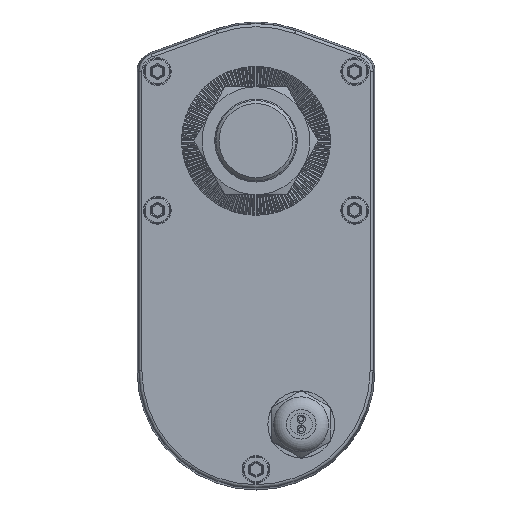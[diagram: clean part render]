
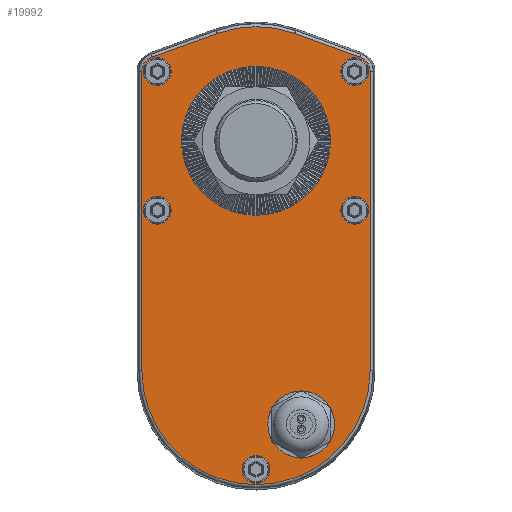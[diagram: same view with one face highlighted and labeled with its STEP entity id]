
A CAD part, top view. The second image highlights one B-rep face of the part: STEP entity #19992.
In plain terms, the highlighted planar face has unit normal (0, 0, 1).
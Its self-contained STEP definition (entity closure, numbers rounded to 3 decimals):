
#30 = CARTESIAN_POINT ( 'NONE',  ( -24.1, 0., 40. ) ) ;
#102 = CIRCLE ( 'NONE', #19514, 37.012 ) ;
#165 = AXIS2_PLACEMENT_3D ( 'NONE', #24061, #10828, #26296 ) ;
#299 = VECTOR ( 'NONE', #13259, 1000. ) ;
#483 = EDGE_CURVE ( 'NONE', #19785, #12077, #17499, .T. ) ;
#643 = CARTESIAN_POINT ( 'NONE',  ( -32., 22.46, 40. ) ) ;
#801 = AXIS2_PLACEMENT_3D ( 'NONE', #4256, #19655, #6431 ) ;
#879 = AXIS2_PLACEMENT_3D ( 'NONE', #14597, #1442, #16815 ) ;
#978 = LINE ( 'NONE', #6620, #299 ) ;
#1142 = EDGE_LOOP ( 'NONE', ( #6708 ) ) ;
#1442 = DIRECTION ( 'NONE',  ( 0., 0., 1. ) ) ;
#1663 = FACE_BOUND ( 'NONE', #1142, .T. ) ;
#1700 = EDGE_LOOP ( 'NONE', ( #19817 ) ) ;
#1808 = EDGE_CURVE ( 'NONE', #18748, #18748, #10499, .T. ) ;
#1839 = DIRECTION ( 'NONE',  ( -1., 0., 0. ) ) ;
#2141 = CARTESIAN_POINT ( 'NONE',  ( -27.5, -22.54, 40. ) ) ;
#2345 = CARTESIAN_POINT ( 'NONE',  ( -27.5, 22.46, 40. ) ) ;
#2377 = FACE_BOUND ( 'NONE', #21349, .T. ) ;
#2860 = DIRECTION ( 'NONE',  ( 1., 0., 0. ) ) ;
#2904 = VERTEX_POINT ( 'NONE', #22342 ) ;
#3055 = FACE_BOUND ( 'NONE', #18378, .T. ) ;
#3233 = VERTEX_POINT ( 'NONE', #24531 ) ;
#3531 = DIRECTION ( 'NONE',  ( 0., 0., 1. ) ) ;
#4256 = CARTESIAN_POINT ( 'NONE',  ( 31.995, 22.46, 40. ) ) ;
#5053 = CARTESIAN_POINT ( 'NONE',  ( -32., -22.54, 40. ) ) ;
#5640 = VERTEX_POINT ( 'NONE', #2141 ) ;
#5642 = ORIENTED_EDGE ( 'NONE', *, *, #14947, .T. ) ;
#6078 = LINE ( 'NONE', #7529, #17101 ) ;
#6153 = EDGE_CURVE ( 'NONE', #5640, #5640, #6288, .T. ) ;
#6197 = CARTESIAN_POINT ( 'NONE',  ( 0., 0., 40. ) ) ;
#6288 = CIRCLE ( 'NONE', #22756, 4.5 ) ;
#6431 = DIRECTION ( 'NONE',  ( -1., 0., 0. ) ) ;
#6620 = CARTESIAN_POINT ( 'NONE',  ( 37.012, 22.46, 40. ) ) ;
#6708 = ORIENTED_EDGE ( 'NONE', *, *, #8583, .F. ) ;
#6823 = ORIENTED_EDGE ( 'NONE', *, *, #6153, .F. ) ;
#6941 = ORIENTED_EDGE ( 'NONE', *, *, #21384, .T. ) ;
#6993 = DIRECTION ( 'NONE',  ( -0.94, 0.34, 0. ) ) ;
#7106 = CARTESIAN_POINT ( 'NONE',  ( 0., -106.54, 40. ) ) ;
#7242 = DIRECTION ( 'NONE',  ( 1., 0., 0. ) ) ;
#7376 = ORIENTED_EDGE ( 'NONE', *, *, #10902, .F. ) ;
#7489 = CIRCLE ( 'NONE', #801, 5.017 ) ;
#7493 = FACE_OUTER_BOUND ( 'NONE', #27984, .T. ) ;
#7529 = CARTESIAN_POINT ( 'NONE',  ( -33.701, 27.179, 40. ) ) ;
#8492 = CIRCLE ( 'NONE', #165, 4.5 ) ;
#8583 = EDGE_CURVE ( 'NONE', #27680, #27680, #17004, .T. ) ;
#8729 = CARTESIAN_POINT ( 'NONE',  ( 6.781, -91.966, 40. ) ) ;
#8791 = ORIENTED_EDGE ( 'NONE', *, *, #22397, .F. ) ;
#9043 = AXIS2_PLACEMENT_3D ( 'NONE', #643, #16004, #2860 ) ;
#9056 = DIRECTION ( 'NONE',  ( 0., 0., 1. ) ) ;
#9116 = CARTESIAN_POINT ( 'NONE',  ( 12.586, 34.812, 40. ) ) ;
#9308 = DIRECTION ( 'NONE',  ( 1., 0., 0. ) ) ;
#9420 = VERTEX_POINT ( 'NONE', #17585 ) ;
#10313 = ORIENTED_EDGE ( 'NONE', *, *, #14806, .T. ) ;
#10499 = CIRCLE ( 'NONE', #879, 4.5 ) ;
#10692 = PLANE ( 'NONE',  #27124 ) ;
#10739 = EDGE_LOOP ( 'NONE', ( #14400 ) ) ;
#10828 = DIRECTION ( 'NONE',  ( 0., 0., 1. ) ) ;
#10902 = EDGE_CURVE ( 'NONE', #27002, #27002, #21989, .T. ) ;
#11032 = CIRCLE ( 'NONE', #18227, 5.017 ) ;
#11281 = EDGE_CURVE ( 'NONE', #9420, #9420, #8492, .T. ) ;
#11360 = CARTESIAN_POINT ( 'NONE',  ( -12.586, 34.812, 40. ) ) ;
#11414 = EDGE_LOOP ( 'NONE', ( #7376 ) ) ;
#11482 = DIRECTION ( 'NONE',  ( 0., 0., 1. ) ) ;
#11661 = EDGE_CURVE ( 'NONE', #13120, #14441, #6078, .T. ) ;
#12077 = VERTEX_POINT ( 'NONE', #12629 ) ;
#12220 = ORIENTED_EDGE ( 'NONE', *, *, #483, .T. ) ;
#12334 = CARTESIAN_POINT ( 'NONE',  ( 0., 0., 40. ) ) ;
#12436 = LINE ( 'NONE', #25646, #23515 ) ;
#12629 = CARTESIAN_POINT ( 'NONE',  ( 12.586, 34.812, 40. ) ) ;
#12784 = ORIENTED_EDGE ( 'NONE', *, *, #17986, .T. ) ;
#12906 = DIRECTION ( 'NONE',  ( -1., 0., 0. ) ) ;
#13120 = VERTEX_POINT ( 'NONE', #11360 ) ;
#13259 = DIRECTION ( 'NONE',  ( 0., 1., 0. ) ) ;
#13322 = FACE_BOUND ( 'NONE', #1700, .T. ) ;
#13838 = ORIENTED_EDGE ( 'NONE', *, *, #15346, .F. ) ;
#14041 = FACE_BOUND ( 'NONE', #27894, .T. ) ;
#14400 = ORIENTED_EDGE ( 'NONE', *, *, #1808, .F. ) ;
#14441 = VERTEX_POINT ( 'NONE', #17648 ) ;
#14593 = DIRECTION ( 'NONE',  ( -1., 0., 0. ) ) ;
#14597 = CARTESIAN_POINT ( 'NONE',  ( 32., -22.54, 40. ) ) ;
#14760 = AXIS2_PLACEMENT_3D ( 'NONE', #28179, #14953, #1839 ) ;
#14806 = EDGE_CURVE ( 'NONE', #24516, #2904, #102, .T. ) ;
#14947 = EDGE_CURVE ( 'NONE', #14441, #25927, #11032, .T. ) ;
#14953 = DIRECTION ( 'NONE',  ( 0., 0., 1. ) ) ;
#15346 = EDGE_CURVE ( 'NONE', #24951, #24951, #26232, .T. ) ;
#16004 = DIRECTION ( 'NONE',  ( 0., 0., 1. ) ) ;
#16163 = CARTESIAN_POINT ( 'NONE',  ( -37.012, 22.46, 40. ) ) ;
#16698 = CARTESIAN_POINT ( 'NONE',  ( -31.995, 22.46, 40. ) ) ;
#16815 = DIRECTION ( 'NONE',  ( -1., 0., 0. ) ) ;
#17004 = CIRCLE ( 'NONE', #14760, 7.875 ) ;
#17101 = VECTOR ( 'NONE', #25158, 1000. ) ;
#17410 = CARTESIAN_POINT ( 'NONE',  ( 27.5, -22.54, 40. ) ) ;
#17499 = LINE ( 'NONE', #9116, #22704 ) ;
#17585 = CARTESIAN_POINT ( 'NONE',  ( 27.5, 22.46, 40. ) ) ;
#17648 = CARTESIAN_POINT ( 'NONE',  ( -33.701, 27.179, 40. ) ) ;
#17928 = EDGE_CURVE ( 'NONE', #20409, #19785, #7489, .T. ) ;
#17986 = EDGE_CURVE ( 'NONE', #2904, #20409, #978, .T. ) ;
#18227 = AXIS2_PLACEMENT_3D ( 'NONE', #16698, #3531, #18931 ) ;
#18378 = EDGE_LOOP ( 'NONE', ( #6823 ) ) ;
#18487 = CARTESIAN_POINT ( 'NONE',  ( 33.701, 27.179, 40. ) ) ;
#18748 = VERTEX_POINT ( 'NONE', #17410 ) ;
#18931 = DIRECTION ( 'NONE',  ( -1., 0., 0. ) ) ;
#19233 = FACE_BOUND ( 'NONE', #10739, .T. ) ;
#19514 = AXIS2_PLACEMENT_3D ( 'NONE', #24719, #11482, #26932 ) ;
#19655 = DIRECTION ( 'NONE',  ( 0., 0., 1. ) ) ;
#19785 = VERTEX_POINT ( 'NONE', #18487 ) ;
#19817 = ORIENTED_EDGE ( 'NONE', *, *, #11281, .F. ) ;
#19992 = ADVANCED_FACE ( 'NONE', ( #25088, #14041, #3055, #2377, #19233, #13322, #7493, #1663 ), #10692, .F. ) ;
#20409 = VERTEX_POINT ( 'NONE', #20940 ) ;
#20411 = ORIENTED_EDGE ( 'NONE', *, *, #17928, .T. ) ;
#20477 = DIRECTION ( 'NONE',  ( 0., 0., 1. ) ) ;
#20940 = CARTESIAN_POINT ( 'NONE',  ( 37.012, 22.46, 40. ) ) ;
#21349 = EDGE_LOOP ( 'NONE', ( #8791 ) ) ;
#21384 = EDGE_CURVE ( 'NONE', #12077, #13120, #22950, .T. ) ;
#21474 = CARTESIAN_POINT ( 'NONE',  ( -37.012, -74.495, 40. ) ) ;
#21989 = CIRCLE ( 'NONE', #26223, 24.1 ) ;
#22280 = CARTESIAN_POINT ( 'NONE',  ( 0., 0., 40. ) ) ;
#22342 = CARTESIAN_POINT ( 'NONE',  ( 37.012, -74.495, 40. ) ) ;
#22397 = EDGE_CURVE ( 'NONE', #3233, #3233, #26372, .T. ) ;
#22542 = DIRECTION ( 'NONE',  ( 0., 0., 1. ) ) ;
#22704 = VECTOR ( 'NONE', #6993, 1000. ) ;
#22733 = AXIS2_PLACEMENT_3D ( 'NONE', #12334, #27791, #14593 ) ;
#22756 = AXIS2_PLACEMENT_3D ( 'NONE', #5053, #20477, #7242 ) ;
#22950 = CIRCLE ( 'NONE', #22733, 37.017 ) ;
#23515 = VECTOR ( 'NONE', #27914, 1000. ) ;
#23710 = EDGE_CURVE ( 'NONE', #25927, #24516, #12436, .T. ) ;
#24061 = CARTESIAN_POINT ( 'NONE',  ( 32., 22.46, 40. ) ) ;
#24343 = ORIENTED_EDGE ( 'NONE', *, *, #11661, .T. ) ;
#24471 = DIRECTION ( 'NONE',  ( -1., 0., 0. ) ) ;
#24516 = VERTEX_POINT ( 'NONE', #21474 ) ;
#24531 = CARTESIAN_POINT ( 'NONE',  ( 4.5, -106.54, 40. ) ) ;
#24719 = CARTESIAN_POINT ( 'NONE',  ( 0., -74.495, 40. ) ) ;
#24951 = VERTEX_POINT ( 'NONE', #2345 ) ;
#25088 = FACE_BOUND ( 'NONE', #11414, .T. ) ;
#25158 = DIRECTION ( 'NONE',  ( -0.94, -0.34, 0. ) ) ;
#25646 = CARTESIAN_POINT ( 'NONE',  ( -37.012, -74.495, 40. ) ) ;
#25740 = AXIS2_PLACEMENT_3D ( 'NONE', #7106, #22542, #9308 ) ;
#25927 = VERTEX_POINT ( 'NONE', #16163 ) ;
#26160 = DIRECTION ( 'NONE',  ( 0., 0., -1. ) ) ;
#26223 = AXIS2_PLACEMENT_3D ( 'NONE', #22280, #9056, #24471 ) ;
#26232 = CIRCLE ( 'NONE', #9043, 4.5 ) ;
#26296 = DIRECTION ( 'NONE',  ( -1., 0., 0. ) ) ;
#26372 = CIRCLE ( 'NONE', #25740, 4.5 ) ;
#26932 = DIRECTION ( 'NONE',  ( -1., 0., 0. ) ) ;
#27002 = VERTEX_POINT ( 'NONE', #30 ) ;
#27124 = AXIS2_PLACEMENT_3D ( 'NONE', #6197, #26160, #12906 ) ;
#27312 = ORIENTED_EDGE ( 'NONE', *, *, #23710, .T. ) ;
#27680 = VERTEX_POINT ( 'NONE', #8729 ) ;
#27791 = DIRECTION ( 'NONE',  ( 0., 0., 1. ) ) ;
#27894 = EDGE_LOOP ( 'NONE', ( #13838 ) ) ;
#27914 = DIRECTION ( 'NONE',  ( 0., -1., 0. ) ) ;
#27984 = EDGE_LOOP ( 'NONE', ( #27312, #10313, #12784, #20411, #12220, #6941, #24343, #5642 ) ) ;
#28179 = CARTESIAN_POINT ( 'NONE',  ( 14.656, -91.966, 40. ) ) ;
